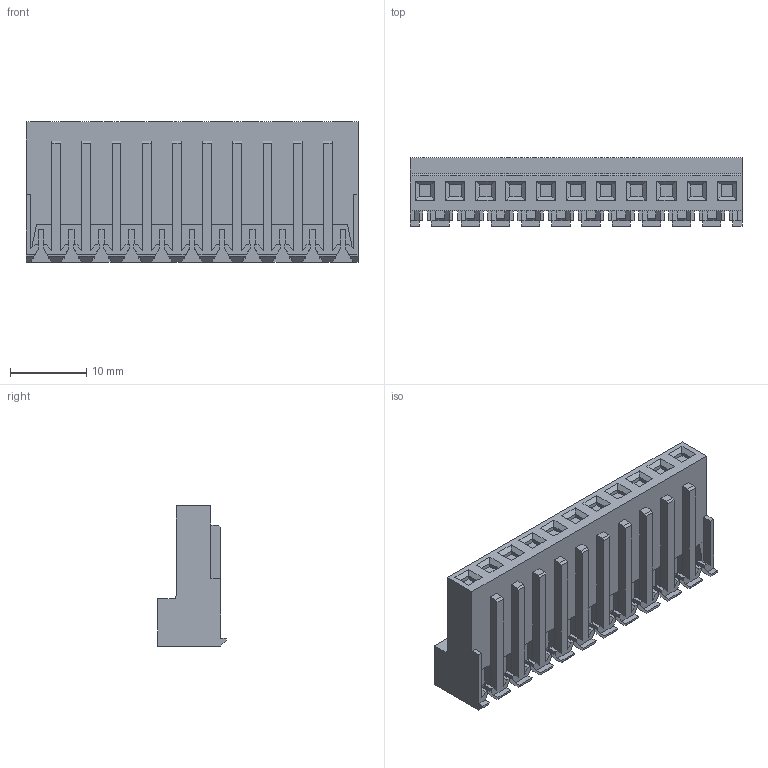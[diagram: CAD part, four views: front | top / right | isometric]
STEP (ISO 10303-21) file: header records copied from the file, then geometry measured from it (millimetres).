
FILE_DESCRIPTION((''),'2;1');
FILE_NAME('C-4-641222-1','2021-08-12T13:38:36',('workeradm'),('TE Connectivity Ltd.'),'CREO PARAMETRIC BY PTC INC, 2021072','CREO PARAMETRIC BY PTC INC, 2021072','');
FILE_SCHEMA(('AUTOMOTIVE_DESIGN { 1 0 10303 214 1 1 1 1 }'));
Length unit declared in the file: millimetre
Products named in the file (1): C-4-641222-1
Bounding box: 43.59 x 9.02 x 18.41 mm (x, y, z)
Volume: 3563.9 mm3; surface area: 4654.4 mm2
Topology: 1 solids, 1 shells, 932 faces, 2730 edges, 1790 vertices
Faces by surface type: plane 843, cylinder 89
Entity records: 30578 total; most frequent: ORIENTED_EDGE 5460, CARTESIAN_POINT 5454, DIRECTION 4774, EDGE_CURVE 2730, VECTOR 2550, LINE 2550, VERTEX_POINT 1790, AXIS2_PLACEMENT_3D 1112
